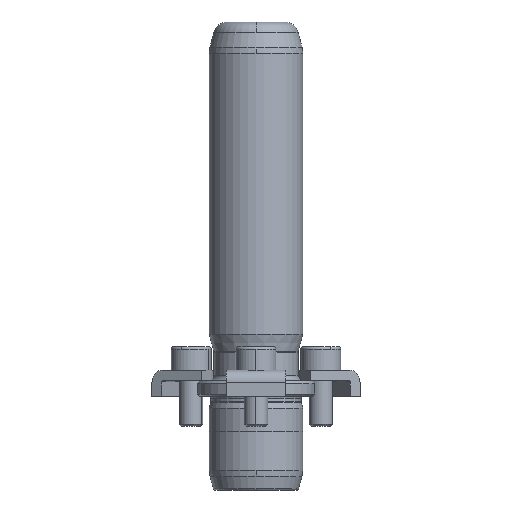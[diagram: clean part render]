
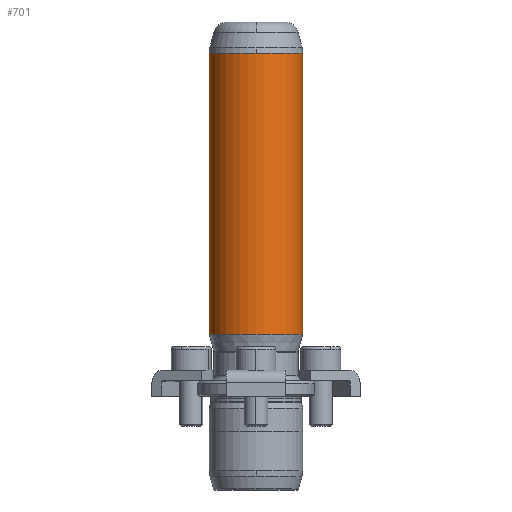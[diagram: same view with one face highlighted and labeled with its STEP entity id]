
A CAD part, front view. The second image highlights one B-rep face of the part: STEP entity #701.
In plain terms, the highlighted cylindrical face has radius 10 mm (diameter 20 mm), a partial arc.
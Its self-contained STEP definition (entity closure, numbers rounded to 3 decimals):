
#614=CARTESIAN_POINT('',(0.0,-10.,73.342));
#615=VERTEX_POINT('',#614);
#642=CARTESIAN_POINT('',(-10.0,0.,73.342));
#643=VERTEX_POINT('',#642);
#651=CARTESIAN_POINT('',(0.0,0.,73.342));
#652=DIRECTION('',(0.0,0.0,1.0));
#653=DIRECTION('',(1.0,0.0,0.0));
#654=AXIS2_PLACEMENT_3D('',#651,#652,#653);
#655=CIRCLE('',#654,10.0);
#656=EDGE_CURVE('',#643,#615,#655,.T.);
#661=CARTESIAN_POINT('',(0.0,0.,43.321));
#662=DIRECTION('',(0.0,0.,1.0));
#663=DIRECTION('',(1.0,0.0,0.0));
#664=AXIS2_PLACEMENT_3D('',#661,#662,#663);
#665=CYLINDRICAL_SURFACE('',#664,10.0);
#666=CARTESIAN_POINT('',(10.0,0.,73.342));
#667=VERTEX_POINT('',#666);
#668=CARTESIAN_POINT('',(10.0,0.,13.3));
#669=VERTEX_POINT('',#668);
#670=CARTESIAN_POINT('',(10.0,0.,73.342));
#671=DIRECTION('',(0.0,0.0,-1.0));
#672=VECTOR('',#671,60.042);
#673=LINE('',#670,#672);
#674=EDGE_CURVE('',#667,#669,#673,.T.);
#675=ORIENTED_EDGE('',*,*,#674,.F.);
#676=CARTESIAN_POINT('',(0.0,0.,73.342));
#677=DIRECTION('',(0.0,0.0,1.0));
#678=DIRECTION('',(1.0,0.0,0.0));
#679=AXIS2_PLACEMENT_3D('',#676,#677,#678);
#680=CIRCLE('',#679,10.0);
#681=EDGE_CURVE('',#615,#667,#680,.T.);
#682=ORIENTED_EDGE('',*,*,#681,.F.);
#683=ORIENTED_EDGE('',*,*,#656,.F.);
#684=CARTESIAN_POINT('',(-10.,0.,13.3));
#685=VERTEX_POINT('',#684);
#686=CARTESIAN_POINT('',(-10.0,0.,73.342));
#687=DIRECTION('',(0.0,0.0,-1.0));
#688=VECTOR('',#687,60.042);
#689=LINE('',#686,#688);
#690=EDGE_CURVE('',#643,#685,#689,.T.);
#691=ORIENTED_EDGE('',*,*,#690,.T.);
#692=CARTESIAN_POINT('',(0.0,0.,13.3));
#693=DIRECTION('',(0.0,0.0,1.0));
#694=DIRECTION('',(1.0,0.0,0.0));
#695=AXIS2_PLACEMENT_3D('',#692,#693,#694);
#696=CIRCLE('',#695,10.0);
#697=EDGE_CURVE('',#685,#669,#696,.T.);
#698=ORIENTED_EDGE('',*,*,#697,.T.);
#699=EDGE_LOOP('',(#675,#682,#683,#691,#698));
#700=FACE_OUTER_BOUND('',#699,.T.);
#701=ADVANCED_FACE('',(#700),#665,.T.);
